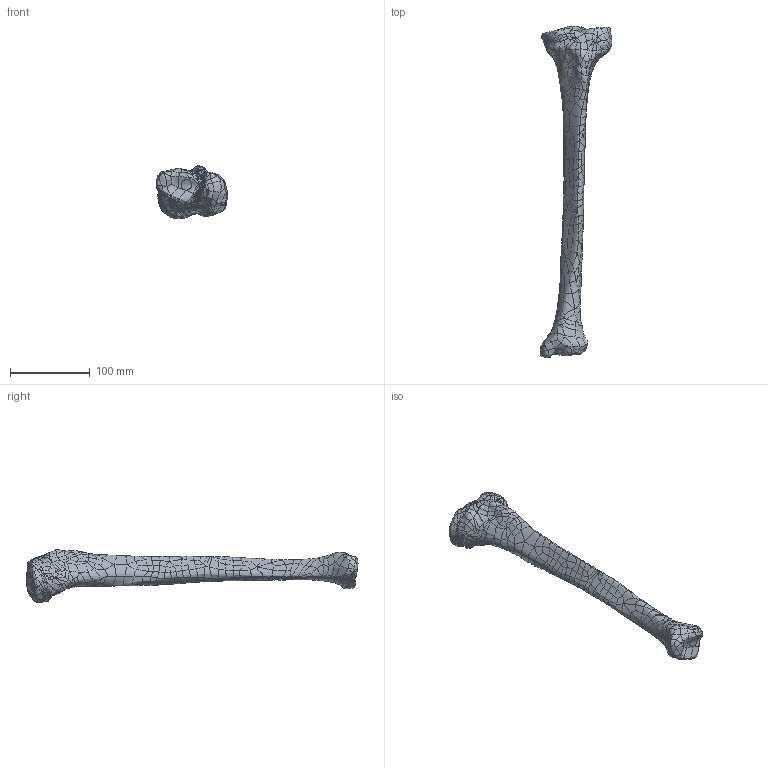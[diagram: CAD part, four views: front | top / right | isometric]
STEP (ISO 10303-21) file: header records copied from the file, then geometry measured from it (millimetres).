
FILE_DESCRIPTION (( 'STEP AP203' ), '1' );
FILE_NAME ('1125.STEP', '2025-06-04T19:48:41', ( '' ), ( '' ), 'SwSTEP 2.0', 'SolidWorks 2024', '' );
FILE_SCHEMA (( 'CONFIG_CONTROL_DESIGN' ));
Length unit declared in the file: millimetre
Products named in the file (1): 1125
Bounding box: 89.76 x 415.52 x 65.65 mm (x, y, z)
Volume: 408171 mm3; surface area: 52579.2 mm2
Topology: 1 solids, 1 shells, 983 faces, 2156 edges, 1181 vertices
Faces by surface type: bspline 980, plane 3
Entity records: 96589 total; most frequent: CARTESIAN_POINT 82747, ORIENTED_EDGE 4312, B_SPLINE_CURVE_WITH_KNOTS 2156, EDGE_CURVE 2156, VERTEX_POINT 1181, EDGE_LOOP 989, ADVANCED_FACE 983, FACE_OUTER_BOUND 983
